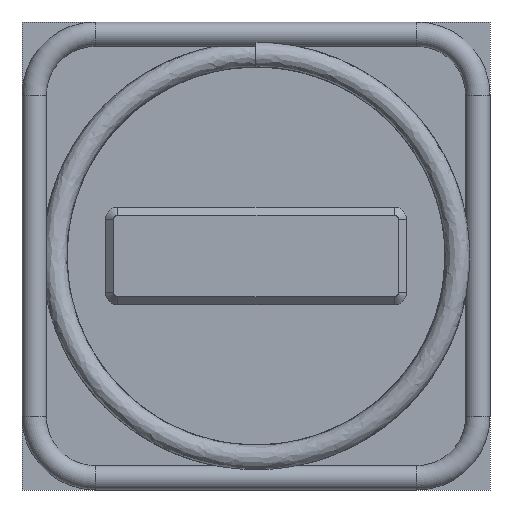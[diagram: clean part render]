
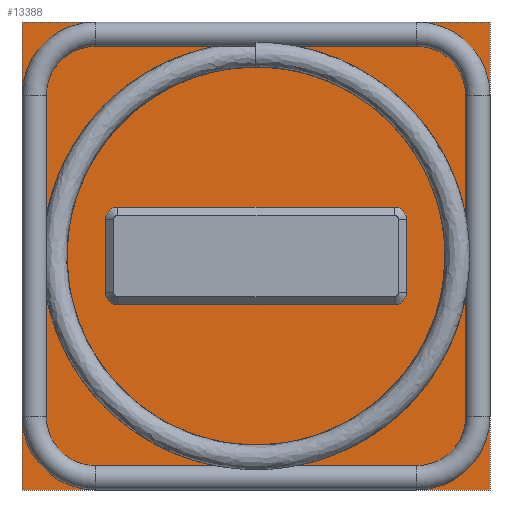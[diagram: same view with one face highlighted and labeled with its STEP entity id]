
A CAD part, front view. The second image highlights one B-rep face of the part: STEP entity #13388.
In plain terms, the highlighted planar face has unit normal (0, -1, 0).
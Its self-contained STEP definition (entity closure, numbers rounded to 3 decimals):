
#64=CIRCLE('',#13750,99.);
#88=CIRCLE('',#13800,6.);
#90=CIRCLE('',#13804,6.);
#92=CIRCLE('',#13808,6.);
#94=CIRCLE('',#13812,6.);
#198=FACE_BOUND('',#2608,.T.);
#199=FACE_BOUND('',#2609,.T.);
#1822=FACE_OUTER_BOUND('',#2607,.T.);
#2607=EDGE_LOOP('',(#11588,#11589,#11590,#11591));
#2608=EDGE_LOOP('',(#11592,#11593));
#2609=EDGE_LOOP('',(#11594,#11595,#11596,#11597,#11598,#11599,#11600,#11601));
#3775=LINE('',#26264,#4927);
#3778=LINE('',#26275,#4930);
#3782=LINE('',#26287,#4934);
#3786=LINE('',#26299,#4938);
#3793=LINE('',#26316,#4945);
#3794=LINE('',#26318,#4946);
#3795=LINE('',#26320,#4947);
#3796=LINE('',#26321,#4948);
#4927=VECTOR('',#15752,136.);
#4930=VECTOR('',#15763,36.);
#4934=VECTOR('',#15775,136.);
#4938=VECTOR('',#15787,36.);
#4945=VECTOR('',#15810,230.);
#4946=VECTOR('',#15811,230.);
#4947=VECTOR('',#15812,230.);
#4948=VECTOR('',#15813,230.);
#6110=VERTEX_POINT('',#25720);
#6117=VERTEX_POINT('',#26167);
#6149=VERTEX_POINT('',#26257);
#6152=VERTEX_POINT('',#26262);
#6154=VERTEX_POINT('',#26267);
#6156=VERTEX_POINT('',#26273);
#6158=VERTEX_POINT('',#26279);
#6160=VERTEX_POINT('',#26285);
#6162=VERTEX_POINT('',#26291);
#6164=VERTEX_POINT('',#26297);
#6165=VERTEX_POINT('',#26314);
#6166=VERTEX_POINT('',#26315);
#6167=VERTEX_POINT('',#26317);
#6168=VERTEX_POINT('',#26319);
#7924=EDGE_CURVE('',#6117,#6110,#64,.T.);
#7959=EDGE_CURVE('',#6152,#6149,#3775,.T.);
#7961=EDGE_CURVE('',#6154,#6152,#88,.T.);
#7964=EDGE_CURVE('',#6156,#6154,#3778,.T.);
#7967=EDGE_CURVE('',#6158,#6156,#90,.T.);
#7970=EDGE_CURVE('',#6160,#6158,#3782,.T.);
#7973=EDGE_CURVE('',#6162,#6160,#92,.T.);
#7976=EDGE_CURVE('',#6164,#6162,#3786,.T.);
#7978=EDGE_CURVE('',#6149,#6164,#94,.T.);
#7985=EDGE_CURVE('',#6165,#6166,#3793,.T.);
#7986=EDGE_CURVE('',#6167,#6165,#3794,.T.);
#7987=EDGE_CURVE('',#6168,#6167,#3795,.T.);
#7988=EDGE_CURVE('',#6166,#6168,#3796,.T.);
#11588=ORIENTED_EDGE('',*,*,#7985,.F.);
#11589=ORIENTED_EDGE('',*,*,#7986,.F.);
#11590=ORIENTED_EDGE('',*,*,#7987,.F.);
#11591=ORIENTED_EDGE('',*,*,#7988,.F.);
#11592=ORIENTED_EDGE('',*,*,#7924,.T.);
#11593=ORIENTED_EDGE('',*,*,#7924,.F.);
#11594=ORIENTED_EDGE('',*,*,#7959,.F.);
#11595=ORIENTED_EDGE('',*,*,#7961,.F.);
#11596=ORIENTED_EDGE('',*,*,#7964,.F.);
#11597=ORIENTED_EDGE('',*,*,#7967,.F.);
#11598=ORIENTED_EDGE('',*,*,#7970,.F.);
#11599=ORIENTED_EDGE('',*,*,#7973,.F.);
#11600=ORIENTED_EDGE('',*,*,#7976,.F.);
#11601=ORIENTED_EDGE('',*,*,#7978,.F.);
#12007=PLANE('',#13818);
#13388=ADVANCED_FACE('',(#1822,#198,#199),#12007,.F.);
#13750=AXIS2_PLACEMENT_3D('',#26169,#15643,#15644);
#13800=AXIS2_PLACEMENT_3D('',#26269,#15756,#15757);
#13804=AXIS2_PLACEMENT_3D('',#26281,#15768,#15769);
#13808=AXIS2_PLACEMENT_3D('',#26293,#15780,#15781);
#13812=AXIS2_PLACEMENT_3D('',#26302,#15791,#15792);
#13818=AXIS2_PLACEMENT_3D('',#26313,#15808,#15809);
#15643=DIRECTION('center_axis',(0.,-1.,0.));
#15644=DIRECTION('ref_axis',(0.,0.,-1.));
#15752=DIRECTION('',(-1.,0.,0.));
#15756=DIRECTION('center_axis',(0.,-1.,0.));
#15757=DIRECTION('ref_axis',(1.,0.,0.));
#15763=DIRECTION('',(0.,0.,1.));
#15768=DIRECTION('center_axis',(0.,-1.,0.));
#15769=DIRECTION('ref_axis',(0.,0.,-1.));
#15775=DIRECTION('',(1.,0.,0.));
#15780=DIRECTION('center_axis',(0.,-1.,0.));
#15781=DIRECTION('ref_axis',(-1.,0.,0.));
#15787=DIRECTION('',(0.,0.,-1.));
#15791=DIRECTION('center_axis',(0.,-1.,0.));
#15792=DIRECTION('ref_axis',(0.,0.,1.));
#15808=DIRECTION('center_axis',(0.,1.,0.));
#15809=DIRECTION('ref_axis',(0.,0.,1.));
#15810=DIRECTION('',(-1.,0.,0.));
#15811=DIRECTION('',(0.,0.,-1.));
#15812=DIRECTION('',(1.,0.,0.));
#15813=DIRECTION('',(0.,0.,1.));
#25720=CARTESIAN_POINT('',(99.,0.,0.));
#26167=CARTESIAN_POINT('',(0.,0.,99.));
#26169=CARTESIAN_POINT('Origin',(0.,0.,0.));
#26257=CARTESIAN_POINT('',(-68.,0.,24.));
#26262=CARTESIAN_POINT('',(68.,0.,24.));
#26264=CARTESIAN_POINT('',(-34.,0.,24.));
#26267=CARTESIAN_POINT('',(74.,0.,18.));
#26269=CARTESIAN_POINT('Origin',(68.,0.,18.));
#26273=CARTESIAN_POINT('',(74.,0.,-18.));
#26275=CARTESIAN_POINT('',(74.,0.,9.));
#26279=CARTESIAN_POINT('',(68.,0.,-24.));
#26281=CARTESIAN_POINT('Origin',(68.,0.,-18.));
#26285=CARTESIAN_POINT('',(-68.,0.,-24.));
#26287=CARTESIAN_POINT('',(34.,0.,-24.));
#26291=CARTESIAN_POINT('',(-74.,0.,-18.));
#26293=CARTESIAN_POINT('Origin',(-68.,0.,-18.));
#26297=CARTESIAN_POINT('',(-74.,0.,18.));
#26299=CARTESIAN_POINT('',(-74.,0.,-9.));
#26302=CARTESIAN_POINT('Origin',(-68.,0.,18.));
#26313=CARTESIAN_POINT('Origin',(0.,0.,0.));
#26314=CARTESIAN_POINT('',(115.,0.,-115.));
#26315=CARTESIAN_POINT('',(-115.,0.,-115.));
#26316=CARTESIAN_POINT('',(115.,0.,-115.));
#26317=CARTESIAN_POINT('',(115.,0.,115.));
#26318=CARTESIAN_POINT('',(115.,0.,115.));
#26319=CARTESIAN_POINT('',(-115.,0.,115.));
#26320=CARTESIAN_POINT('',(-115.,0.,115.));
#26321=CARTESIAN_POINT('',(-115.,0.,-115.));
